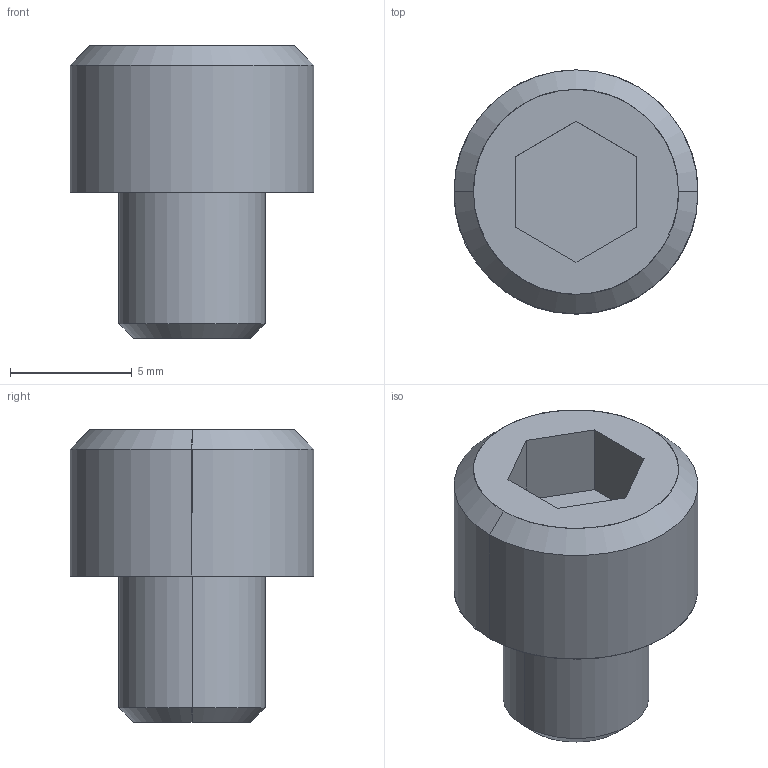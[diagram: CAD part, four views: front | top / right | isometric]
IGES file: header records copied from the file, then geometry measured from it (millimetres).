
Global section: file name: E:\UnigraphicsGraphicData\MISUMI_PRESS-PARTS\IGES\3d_cb6-6_00442_r00.igs; native system: NX V5.0; preprocessor: UGS NX IGES V5.0; author: MISUMI; date: 20110105.160147; units: millimetre
Bounding box: 10 x 10 x 12 mm (x, y, z)
Surface area: 488.4 mm2 (no closed solid volume)
Topology: 0 solids, 0 shells, 18 faces, 100 edges, 100 vertices
Faces by surface type: bspline 18
